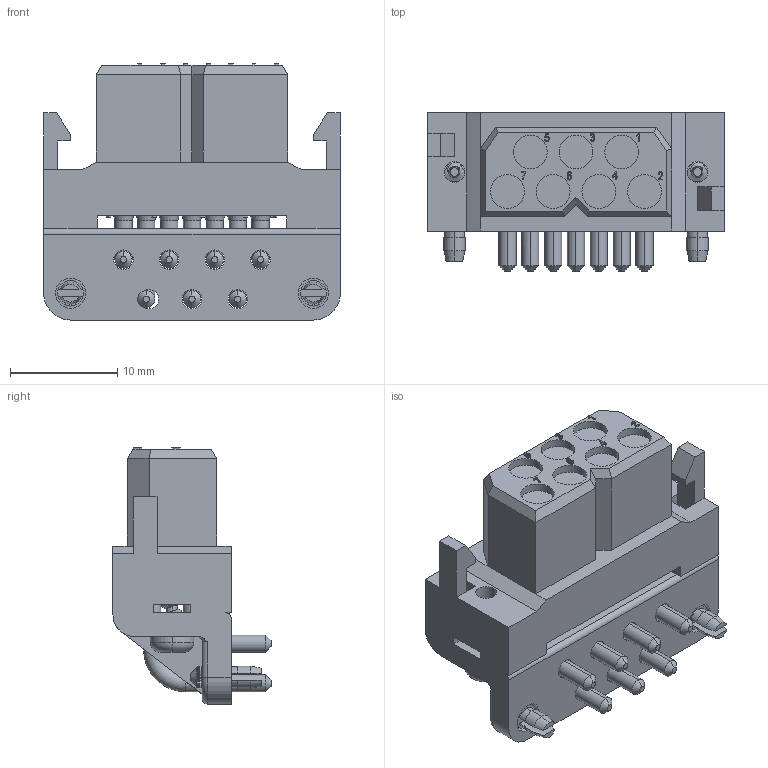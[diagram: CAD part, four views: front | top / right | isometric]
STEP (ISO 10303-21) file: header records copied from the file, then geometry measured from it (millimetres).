
FILE_DESCRIPTION (( 'STEP AP214' ), '1' );
FILE_NAME ('DF07F4BN.STEP', '2019-02-06T16:05:33', ( '' ), ( '' ), 'SwSTEP 2.0', 'SolidWorks 2017', '' );
FILE_SCHEMA (( 'AUTOMOTIVE_DESIGN' ));
Length unit declared in the file: inch
Products named in the file (1): DF07F4BN
Bounding box: 27.6 x 14.71 x 23.83 mm (x, y, z)
Volume: 3674.7 mm3; surface area: 3429.6 mm2
Topology: 1 solids, 1 shells, 1350 faces, 4113 edges, 2643 vertices
Faces by surface type: plane 891, cylinder 261, bspline 116, cone 60, torus 22
Entity records: 54713 total; most frequent: CARTESIAN_POINT 18855, ORIENTED_EDGE 8226, DIRECTION 6591, EDGE_CURVE 4113, LINE 2657, VECTOR 2657, VERTEX_POINT 2643, AXIS2_PLACEMENT_3D 1967
